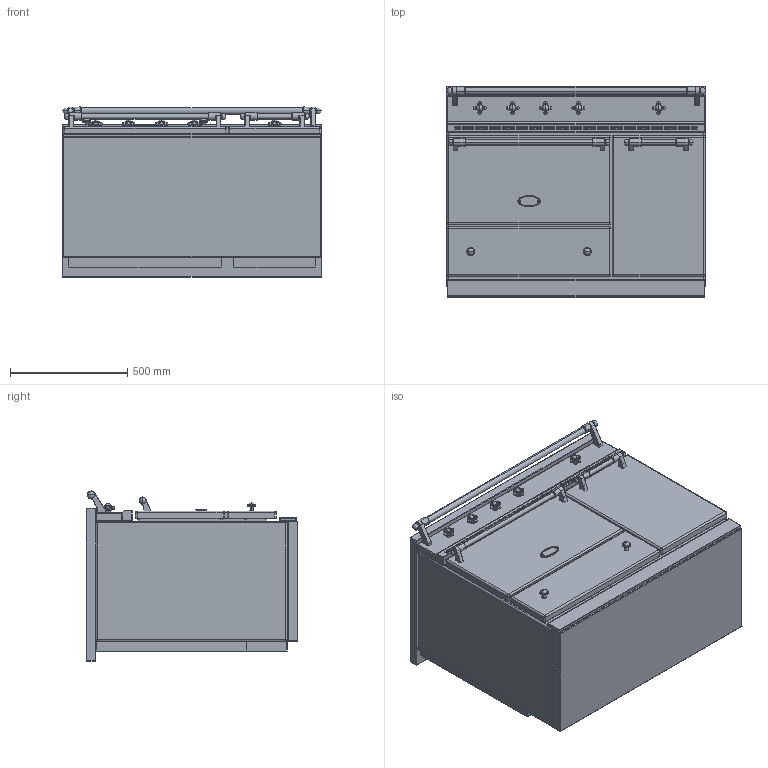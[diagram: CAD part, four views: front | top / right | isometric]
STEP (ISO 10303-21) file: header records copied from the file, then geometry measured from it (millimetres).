
FILE_DESCRIPTION((''),'2;1');
FILE_NAME('LVI1132_SAVIGNY_ASM','2014-07-29T',('r.avril'),(''),'PRO/ENGINEER BY PARAMETRIC TECHNOLOGY CORPORATION, 2014090','PRO/ENGINEER BY PARAMETRIC TECHNOLOGY CORPORATION, 2014090','');
FILE_SCHEMA(('AP203_CONFIGURATION_CONTROLLED_3D_DESIGN_OF_MECHANICAL_PARTS_AND_ASSEMBLIES_MIM_LF { 1 0 10303 403 2 1 2 }'));
Products named in the file (17): BASE_EXPORT_CHAMBERTIN_LVI1131; 65650003; 65650004; 6531940; 6531941; 6531943; 65049009; 65650001; 6538399; 1931942; 6518450; 6531942_ASM; BASE_EXPORT_SAVIGNY_LVI1132_ASM; TABLE_1100D_INDUCTION_ET_VTR; 65052012; TABLE_1100D_INDUCTION_ASM; LVI1132_SAVIGNY_ASM
Assembly tree (23 placements, depth 4):
  LVI1132_SAVIGNY_ASM
    BASE_EXPORT_SAVIGNY_LVI1132_ASM
      BASE_EXPORT_CHAMBERTIN_LVI1131
      65650003
      65650004
      6531940  x2
      6531941  x2
      6531943  x2
      65049009
      65650001
      6531942_ASM  x5
        6538399
        1931942
        6518450
    TABLE_1100D_INDUCTION_ASM
      TABLE_1100D_INDUCTION_ET_VTR
      65052012
Bounding box: 1105 x 900.68 x 724 mm (x, y, z)
Volume: 577422497.9 mm3; surface area: 8973615.1 mm2
Topology: 30 solids, 38 shells, 2960 faces, 8091 edges, 5427 vertices
Faces by surface type: plane 1618, cylinder 794, torus 154, sphere 144, extrusion 142, cone 54, bspline 42, revolution 12
Entity records: 70437 total; most frequent: CARTESIAN_POINT 13527, DIRECTION 9533, ORIENTED_EDGE 8024, EDGE_CURVE 4022, AXIS2_PLACEMENT_3D 3230, VECTOR 3014, LINE 2984, PRESENTATION_STYLE_ASSIGNMENT 2732
